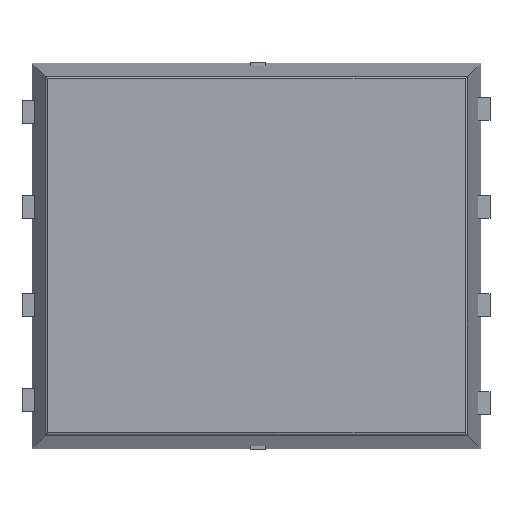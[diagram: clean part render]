
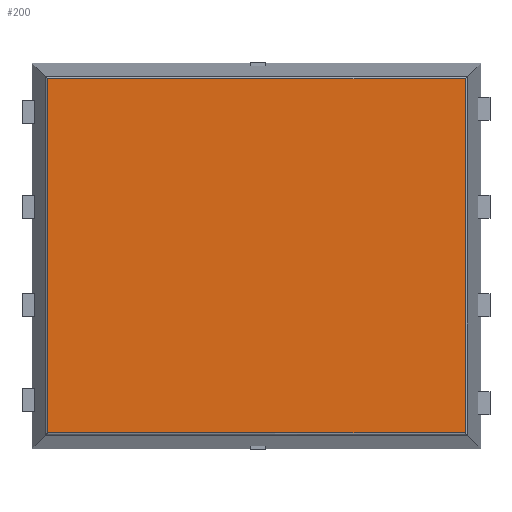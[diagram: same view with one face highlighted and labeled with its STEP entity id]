
A CAD part, top view. The second image highlights one B-rep face of the part: STEP entity #200.
In plain terms, the highlighted planar face has unit normal (0, 0, 1).
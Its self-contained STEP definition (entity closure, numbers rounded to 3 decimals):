
#200=ADVANCED_FACE('',(#576),#390,.T.);
#390=PLANE('',#3917);
#576=FACE_OUTER_BOUND('',#766,.T.);
#766=EDGE_LOOP('',(#1485,#1486,#1487,#1488));
#1485=ORIENTED_EDGE('',*,*,#2616,.T.);
#1486=ORIENTED_EDGE('',*,*,#2617,.T.);
#1487=ORIENTED_EDGE('',*,*,#2618,.T.);
#1488=ORIENTED_EDGE('',*,*,#2619,.T.);
#2173=VERTEX_POINT('',#5662);
#2174=VERTEX_POINT('',#5663);
#2175=VERTEX_POINT('',#5665);
#2176=VERTEX_POINT('',#5667);
#2616=EDGE_CURVE('',#2173,#2174,#3140,.T.);
#2617=EDGE_CURVE('',#2174,#2175,#3141,.T.);
#2618=EDGE_CURVE('',#2175,#2176,#3142,.T.);
#2619=EDGE_CURVE('',#2176,#2173,#3143,.T.);
#3140=LINE('',#5661,#3660);
#3141=LINE('',#5664,#3661);
#3142=LINE('',#5666,#3662);
#3143=LINE('',#5668,#3663);
#3660=VECTOR('',#4583,1.);
#3661=VECTOR('',#4584,1.);
#3662=VECTOR('',#4585,1.);
#3663=VECTOR('',#4586,1.);
#3917=AXIS2_PLACEMENT_3D('',#5669,#4587,#4588);
#4583=DIRECTION('',(0.,-1.,0.));
#4584=DIRECTION('',(1.,0.,0.));
#4585=DIRECTION('',(0.,1.,0.));
#4586=DIRECTION('',(-1.,0.,0.));
#4587=DIRECTION('',(0.,0.,1.));
#4588=DIRECTION('',(1.,0.,0.));
#5661=CARTESIAN_POINT('',(-2.804,2.025,0.42));
#5662=CARTESIAN_POINT('',(-2.804,4.314,0.42));
#5663=CARTESIAN_POINT('',(-2.804,-0.264,0.42));
#5664=CARTESIAN_POINT('',(-0.106,-0.264,0.42));
#5665=CARTESIAN_POINT('',(2.593,-0.264,0.42));
#5666=CARTESIAN_POINT('',(2.593,2.025,0.42));
#5667=CARTESIAN_POINT('',(2.593,4.314,0.42));
#5668=CARTESIAN_POINT('',(-0.106,4.314,0.42));
#5669=CARTESIAN_POINT('',(-0.106,2.025,0.42));
